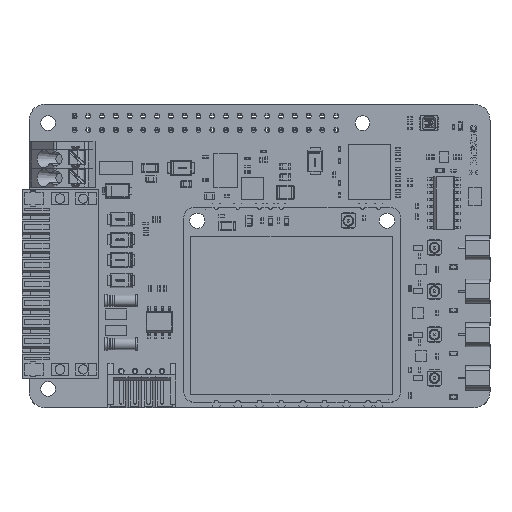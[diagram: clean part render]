
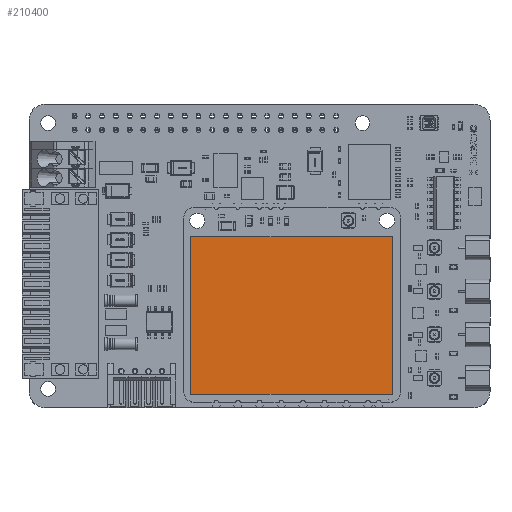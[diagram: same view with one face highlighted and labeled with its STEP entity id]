
A CAD part, top view. The second image highlights one B-rep face of the part: STEP entity #210400.
In plain terms, the highlighted planar face has unit normal (0, 0, 1).
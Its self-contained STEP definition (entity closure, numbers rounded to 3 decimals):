
#25041=LINE('',#364129,#46327);
#25044=LINE('',#364135,#46330);
#25047=LINE('',#364141,#46333);
#25050=LINE('',#364146,#46336);
#46327=VECTOR('',#283880,10.);
#46330=VECTOR('',#283885,10.);
#46333=VECTOR('',#283890,10.);
#46336=VECTOR('',#283895,10.);
#57094=PLANE('',#234602);
#68372=FACE_OUTER_BOUND('',#80328,.T.);
#80328=EDGE_LOOP('',(#177837,#177838,#177839,#177840));
#102163=VERTEX_POINT('',#364126);
#102164=VERTEX_POINT('',#364128);
#102166=VERTEX_POINT('',#364134);
#102168=VERTEX_POINT('',#364140);
#127995=EDGE_CURVE('',#102163,#102164,#25041,.F.);
#127998=EDGE_CURVE('',#102164,#102166,#25044,.F.);
#128001=EDGE_CURVE('',#102166,#102168,#25047,.F.);
#128004=EDGE_CURVE('',#102168,#102163,#25050,.F.);
#177837=ORIENTED_EDGE('',*,*,#127995,.F.);
#177838=ORIENTED_EDGE('',*,*,#128004,.F.);
#177839=ORIENTED_EDGE('',*,*,#128001,.F.);
#177840=ORIENTED_EDGE('',*,*,#127998,.F.);
#210400=ADVANCED_FACE('',(#68372),#57094,.T.);
#234602=AXIS2_PLACEMENT_3D('',#364149,#283899,#283900);
#283880=DIRECTION('',(-1.,0.,0.));
#283885=DIRECTION('',(0.,1.,0.));
#283890=DIRECTION('',(1.,0.,0.));
#283895=DIRECTION('',(0.,-1.,0.));
#283899=DIRECTION('center_axis',(0.,0.,1.));
#283900=DIRECTION('ref_axis',(1.,0.,0.));
#364126=CARTESIAN_POINT('',(0.,29.,4.8));
#364128=CARTESIAN_POINT('',(37.2,29.,4.8));
#364129=CARTESIAN_POINT('',(0.,29.,4.8));
#364134=CARTESIAN_POINT('',(37.2,0.,4.8));
#364135=CARTESIAN_POINT('',(37.2,29.,4.8));
#364140=CARTESIAN_POINT('',(0.,0.,4.8));
#364141=CARTESIAN_POINT('',(18.6,0.,4.8));
#364146=CARTESIAN_POINT('',(0.,14.5,4.8));
#364149=CARTESIAN_POINT('Origin',(0.,29.,4.8));
